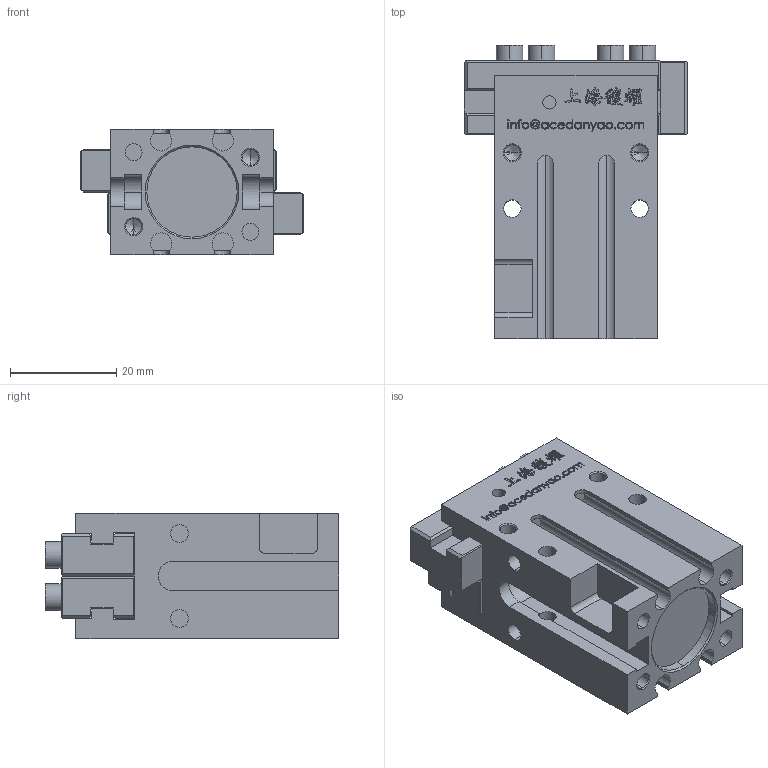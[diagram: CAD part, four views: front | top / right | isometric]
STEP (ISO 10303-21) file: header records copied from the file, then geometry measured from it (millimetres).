
FILE_DESCRIPTION (( 'STEP AP203' ), '1' );
FILE_NAME ('PEP-16-C2-VT-原始檔-組合-W106.04.20.STEP', '2017-04-20T02:12:31', ( 'DanyaoCAD' ), ( '' ), 'SwSTEP 2.0', 'SolidWorks 2016', '' );
FILE_SCHEMA (( 'CONFIG_CONTROL_DESIGN' ));
Length unit declared in the file: millimetre
Products named in the file (3): Griffa; Corpo; PEP-16-C2-VT-原始檔-組合-W106.04.20
Assembly tree (3 placements, depth 2):
  PEP-16-C2-VT-原始檔-組合-W106.04.20
    Griffa  x2
    Corpo
Bounding box: 42 x 55.3 x 23.6 mm (x, y, z)
Volume: 31523.8 mm3; surface area: 14970 mm2
Topology: 3 solids, 3 shells, 1030 faces, 2861 edges, 1890 vertices
Faces by surface type: bspline 640, plane 283, cylinder 85, cone 22
Entity records: 48018 total; most frequent: CARTESIAN_POINT 26671, ORIENTED_EDGE 5482, EDGE_CURVE 2741, DIRECTION 2333, VERTEX_POINT 1818, VECTOR 1293, LINE 1293, B_SPLINE_CURVE_WITH_KNOTS 1280
